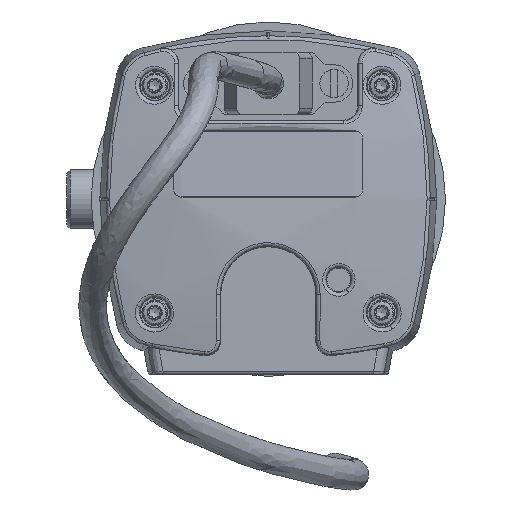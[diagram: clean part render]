
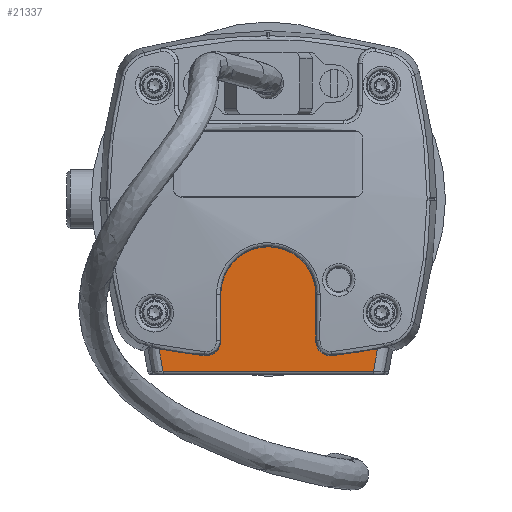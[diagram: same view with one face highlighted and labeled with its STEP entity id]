
A CAD part, left-side view. The second image highlights one B-rep face of the part: STEP entity #21337.
In plain terms, the highlighted planar face has unit normal (-1, 0, 0).
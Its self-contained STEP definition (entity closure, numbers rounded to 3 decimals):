
#721=B_SPLINE_CURVE_WITH_KNOTS('',3,(#48720,#48721,#48722,#48723,#48724,
#48725),.UNSPECIFIED.,.F.,.F.,(4,2,4),(0.823,1.055,
1.419),.UNSPECIFIED.);
#751=B_SPLINE_CURVE_WITH_KNOTS('',3,(#50315,#50316,#50317,#50318,#50319,
#50320),.UNSPECIFIED.,.F.,.F.,(4,2,4),(25.387,25.751,
25.983),.UNSPECIFIED.);
#752=B_SPLINE_CURVE_WITH_KNOTS('',3,(#50323,#50324,#50325,#50326,#50327,
#50328,#50329,#50330,#50331,#50332,#50333,#50334,#50335,#50336),
 .UNSPECIFIED.,.F.,.F.,(4,2,2,2,2,2,4),(-0.33,-0.288,
-0.243,-0.165,-0.089,-0.043,
0.),.UNSPECIFIED.);
#753=B_SPLINE_CURVE_WITH_KNOTS('',3,(#50343,#50344,#50345,#50346,#50347,
#50348,#50349,#50350,#50351,#50352,#50353,#50354,#50355,#50356),
 .UNSPECIFIED.,.F.,.F.,(4,2,2,2,2,2,4),(-0.33,-0.287,
-0.241,-0.165,-0.087,-0.042,
0.),.UNSPECIFIED.);
#1719=PLANE('',#23023);
#2624=FACE_OUTER_BOUND('',#3805,.T.);
#3805=EDGE_LOOP('',(#16680,#16681,#16682,#16683,#16684,#16685,#16686,#16687,
#16688,#16689));
#5201=LINE('',#48547,#6610);
#5202=LINE('',#48622,#6611);
#5203=LINE('',#48700,#6612);
#5213=LINE('',#50338,#6622);
#5214=LINE('',#50342,#6623);
#6610=VECTOR('',#27095,10.);
#6611=VECTOR('',#27102,1000.);
#6612=VECTOR('',#27103,10.);
#6622=VECTOR('',#27209,1000.);
#6623=VECTOR('',#27212,1000.);
#7613=CIRCLE('',#23024,6.5);
#9296=VERTEX_POINT('',#48545);
#9297=VERTEX_POINT('',#48546);
#9298=VERTEX_POINT('',#48620);
#9299=VERTEX_POINT('',#48699);
#9300=VERTEX_POINT('',#48716);
#9349=VERTEX_POINT('',#50313);
#9350=VERTEX_POINT('',#50322);
#9351=VERTEX_POINT('',#50337);
#9352=VERTEX_POINT('',#50339);
#9353=VERTEX_POINT('',#50341);
#11952=EDGE_CURVE('',#9296,#9297,#5201,.T.);
#11957=EDGE_CURVE('',#9298,#9296,#5202,.T.);
#11959=EDGE_CURVE('',#9299,#9298,#5203,.T.);
#11963=EDGE_CURVE('',#9300,#9299,#721,.T.);
#12036=EDGE_CURVE('',#9297,#9349,#751,.T.);
#12037=EDGE_CURVE('',#9349,#9350,#752,.T.);
#12038=EDGE_CURVE('',#9350,#9351,#5213,.T.);
#12039=EDGE_CURVE('',#9351,#9352,#7613,.T.);
#12040=EDGE_CURVE('',#9352,#9353,#5214,.T.);
#12041=EDGE_CURVE('',#9353,#9300,#753,.T.);
#16680=ORIENTED_EDGE('',*,*,#11959,.T.);
#16681=ORIENTED_EDGE('',*,*,#11957,.T.);
#16682=ORIENTED_EDGE('',*,*,#11952,.T.);
#16683=ORIENTED_EDGE('',*,*,#12036,.T.);
#16684=ORIENTED_EDGE('',*,*,#12037,.T.);
#16685=ORIENTED_EDGE('',*,*,#12038,.T.);
#16686=ORIENTED_EDGE('',*,*,#12039,.T.);
#16687=ORIENTED_EDGE('',*,*,#12040,.T.);
#16688=ORIENTED_EDGE('',*,*,#12041,.T.);
#16689=ORIENTED_EDGE('',*,*,#11963,.T.);
#21337=ADVANCED_FACE('',(#2624),#1719,.F.);
#23023=AXIS2_PLACEMENT_3D('',#50321,#27207,#27208);
#23024=AXIS2_PLACEMENT_3D('',#50340,#27210,#27211);
#27095=DIRECTION('',(0.,-0.175,0.985));
#27102=DIRECTION('',(0.,-1.,0.));
#27103=DIRECTION('',(0.,-0.175,-0.985));
#27207=DIRECTION('center_axis',(1.,0.,0.));
#27208=DIRECTION('ref_axis',(0.,1.,0.));
#27209=DIRECTION('',(0.,0.,1.));
#27210=DIRECTION('center_axis',(-1.,0.,0.));
#27211=DIRECTION('ref_axis',(0.,1.,0.));
#27212=DIRECTION('',(0.,0.,-1.));
#48545=CARTESIAN_POINT('',(-213.207,-22.098,-23.5));
#48546=CARTESIAN_POINT('',(-213.207,-22.643,-20.435));
#48547=CARTESIAN_POINT('',(-213.207,-22.098,-23.5));
#48620=CARTESIAN_POINT('',(-213.207,6.636,-23.5));
#48622=CARTESIAN_POINT('',(-213.207,-30.731,-23.5));
#48699=CARTESIAN_POINT('',(-213.207,7.181,-20.435));
#48700=CARTESIAN_POINT('',(-213.207,7.181,-20.435));
#48716=CARTESIAN_POINT('',(-213.207,0.905,-21.385));
#48720=CARTESIAN_POINT('Ctrl Pts',(-213.207,0.905,
-21.385));
#48721=CARTESIAN_POINT('Ctrl Pts',(-213.207,1.709,-21.325));
#48722=CARTESIAN_POINT('Ctrl Pts',(-213.207,2.522,-21.241));
#48723=CARTESIAN_POINT('Ctrl Pts',(-213.207,4.617,-20.962));
#48724=CARTESIAN_POINT('Ctrl Pts',(-213.207,5.904,-20.729));
#48725=CARTESIAN_POINT('Ctrl Pts',(-213.207,7.181,-20.435));
#50313=CARTESIAN_POINT('',(-213.207,-16.366,-21.385));
#50315=CARTESIAN_POINT('Ctrl Pts',(-213.207,-22.643,
-20.435));
#50316=CARTESIAN_POINT('Ctrl Pts',(-213.207,-21.365,
-20.729));
#50317=CARTESIAN_POINT('Ctrl Pts',(-213.207,-20.078,
-20.962));
#50318=CARTESIAN_POINT('Ctrl Pts',(-213.207,-17.984,-21.241));
#50319=CARTESIAN_POINT('Ctrl Pts',(-213.207,-17.171,
-21.325));
#50320=CARTESIAN_POINT('Ctrl Pts',(-213.207,-16.366,
-21.385));
#50321=CARTESIAN_POINT('Origin',(-213.207,-30.731,-24.));
#50322=CARTESIAN_POINT('',(-213.207,-14.231,-19.373));
#50323=CARTESIAN_POINT('Ctrl Pts',(-213.207,-16.366,
-21.385));
#50324=CARTESIAN_POINT('Ctrl Pts',(-213.207,-16.227,
-21.395));
#50325=CARTESIAN_POINT('Ctrl Pts',(-213.207,-16.087,
-21.391));
#50326=CARTESIAN_POINT('Ctrl Pts',(-213.207,-15.8,
-21.351));
#50327=CARTESIAN_POINT('Ctrl Pts',(-213.207,-15.655,
-21.313));
#50328=CARTESIAN_POINT('Ctrl Pts',(-213.207,-15.272,
-21.167));
#50329=CARTESIAN_POINT('Ctrl Pts',(-213.207,-15.049,
-21.026));
#50330=CARTESIAN_POINT('Ctrl Pts',(-213.207,-14.677,
-20.673));
#50331=CARTESIAN_POINT('Ctrl Pts',(-213.207,-14.528,
-20.466));
#50332=CARTESIAN_POINT('Ctrl Pts',(-213.207,-14.357,
-20.097));
#50333=CARTESIAN_POINT('Ctrl Pts',(-213.207,-14.308,
-19.951));
#50334=CARTESIAN_POINT('Ctrl Pts',(-213.207,-14.246,
-19.66));
#50335=CARTESIAN_POINT('Ctrl Pts',(-213.207,-14.231,
-19.516));
#50336=CARTESIAN_POINT('Ctrl Pts',(-213.207,-14.231,
-19.373));
#50337=CARTESIAN_POINT('',(-213.207,-14.231,-13.));
#50338=CARTESIAN_POINT('',(-213.207,-14.231,-13.));
#50339=CARTESIAN_POINT('',(-213.207,-1.231,-13.));
#50340=CARTESIAN_POINT('Origin',(-213.207,-7.731,-13.));
#50341=CARTESIAN_POINT('',(-213.207,-1.231,-19.373));
#50342=CARTESIAN_POINT('',(-213.207,-1.231,-13.));
#50343=CARTESIAN_POINT('Ctrl Pts',(-213.207,-1.231,
-19.373));
#50344=CARTESIAN_POINT('Ctrl Pts',(-213.207,-1.231,
-19.516));
#50345=CARTESIAN_POINT('Ctrl Pts',(-213.207,-1.216,
-19.659));
#50346=CARTESIAN_POINT('Ctrl Pts',(-213.207,-1.154,
-19.95));
#50347=CARTESIAN_POINT('Ctrl Pts',(-213.207,-1.105,
-20.096));
#50348=CARTESIAN_POINT('Ctrl Pts',(-213.207,-0.934,
-20.465));
#50349=CARTESIAN_POINT('Ctrl Pts',(-213.207,-0.785,
-20.672));
#50350=CARTESIAN_POINT('Ctrl Pts',(-213.207,-0.413,
-21.026));
#50351=CARTESIAN_POINT('Ctrl Pts',(-213.207,-0.191,
-21.166));
#50352=CARTESIAN_POINT('Ctrl Pts',(-213.207,0.192,
-21.313));
#50353=CARTESIAN_POINT('Ctrl Pts',(-213.207,0.338,
-21.351));
#50354=CARTESIAN_POINT('Ctrl Pts',(-213.207,0.625,
-21.391));
#50355=CARTESIAN_POINT('Ctrl Pts',(-213.207,0.765,
-21.395));
#50356=CARTESIAN_POINT('Ctrl Pts',(-213.207,0.905,
-21.385));
